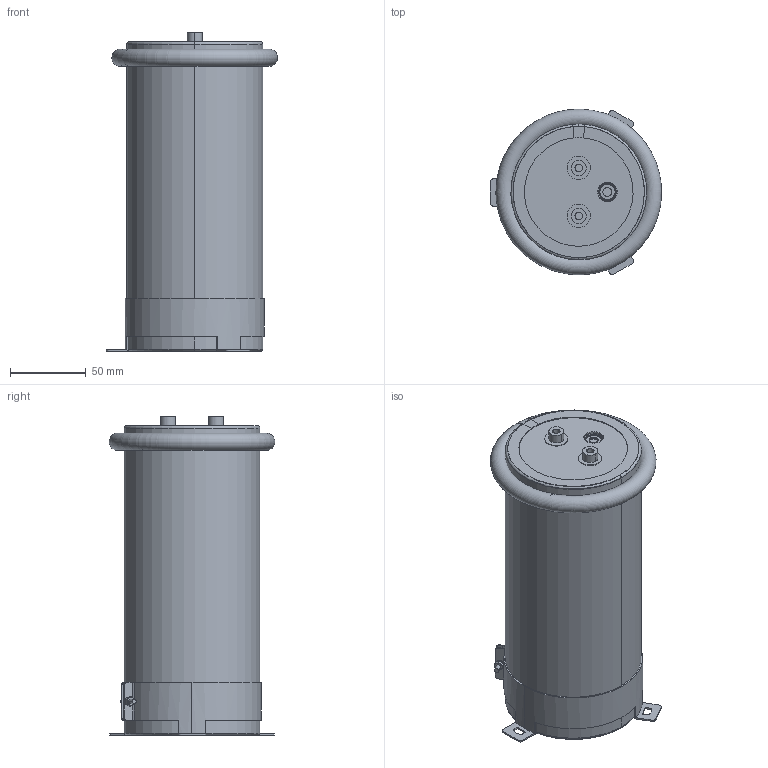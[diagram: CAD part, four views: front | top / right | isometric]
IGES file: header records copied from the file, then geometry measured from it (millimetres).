
Start section: 3D InterOp IGES (v. 2019 1.0.2), Spatial Corp. Copyright (c) 1999-2017.
Global section: file name: 90x205_Screw.igs; native system: Spatial Corp.; preprocessor: 3D InterOp ACIS/IGES; author: Noname; organization: Noname; date: 20220314.174633; units: millimetre
Bounding box: 113.35 x 109.7 x 211 mm (x, y, z)
Volume: 1648841.3 mm3; surface area: 353686.3 mm2
Topology: 9 solids, 9 shells, 352 faces, 953 edges, 591 vertices
Faces by surface type: plane 112, cylinder 110, torus 90, cone 38, sphere 2
